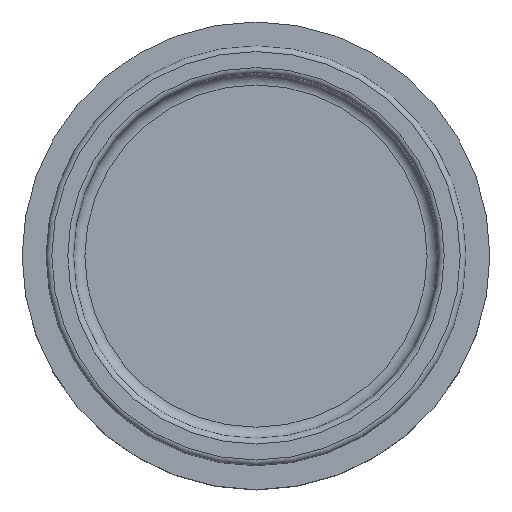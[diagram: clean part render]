
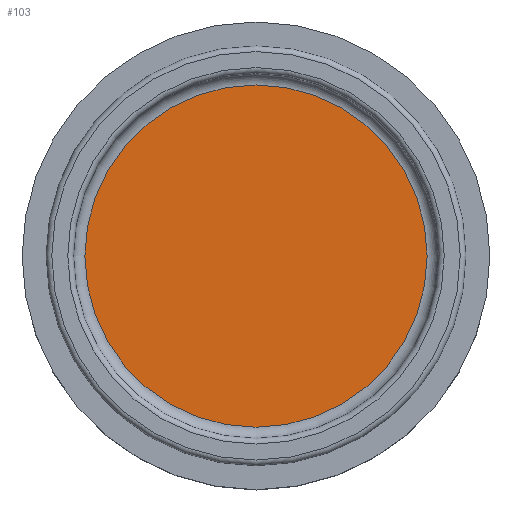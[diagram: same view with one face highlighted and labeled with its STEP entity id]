
A CAD part, top view. The second image highlights one B-rep face of the part: STEP entity #103.
In plain terms, the highlighted planar face has unit normal (0, 0, 1).
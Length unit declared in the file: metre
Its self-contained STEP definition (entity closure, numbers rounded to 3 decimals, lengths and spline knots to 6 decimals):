
#18=ORIENTED_EDGE('',*,*,#36,.T.);
#36=EDGE_CURVE('',#45,#45,#54,.F.);
#45=VERTEX_POINT('',#188);
#54=CIRCLE('',#127,0.03);
#63=EDGE_LOOP('',(#18));
#81=FACE_BOUND('',#63,.T.);
#99=PLANE('',#126);
#103=ADVANCED_FACE('',(#81),#99,.F.);
#126=AXIS2_PLACEMENT_3D('',#186,#147,#148);
#127=AXIS2_PLACEMENT_3D('',#187,#149,#150);
#147=DIRECTION('',(0.,0.,-1.));
#148=DIRECTION('',(1.,0.,0.));
#149=DIRECTION('',(0.,0.,-1.));
#150=DIRECTION('',(-1.,0.,0.));
#186=CARTESIAN_POINT('',(0.,0.,-0.052));
#187=CARTESIAN_POINT('',(0.,0.,-0.052));
#188=CARTESIAN_POINT('',(-0.03,0.,-0.052));
